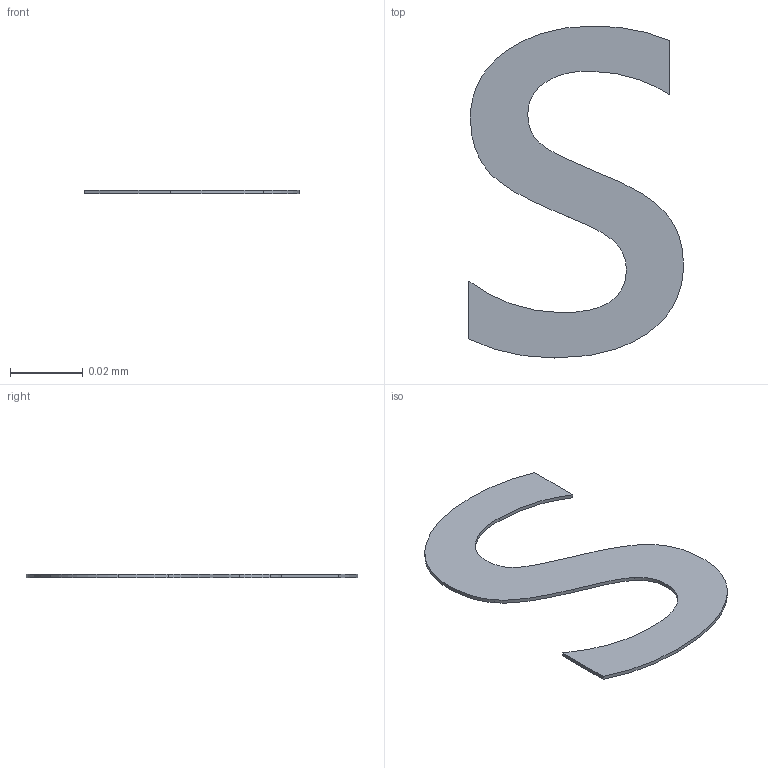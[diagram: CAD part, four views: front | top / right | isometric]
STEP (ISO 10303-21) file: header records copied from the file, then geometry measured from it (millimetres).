
FILE_DESCRIPTION(/* description */ ('STEP AP242 Edition 2','CAx-IF Rec.Pracs.---Representation and Presentation of Product Manufacturing Information (PMI)---4.0---2014-10-13','CAx-IF Rec.Pracs.---3D Tessellated Geometry---0.4---2014-09-14','2;1','CAx-IF Rec.Pracs.---User Defined Attributes---1.5---2016-08-15'),/* implementation_level */ '2;1');
FILE_NAME(/* name */ 'Assembly 1 - SW-SMD_L3.9-W3.0-P4.45~SW-SMD_L3.9-W2.9-H2.0-LS4.8~nxQB_1 (15)',/* time_stamp */ '2026-04-02T09:55:26Z',/* author */ (''),/* organization */ (''),/* preprocessor_version */ 'ST-DEVELOPER v20',/* originating_system */ 'ONSHAPE BY PTC INC, 1.212',/* authorisation */ ' ');
FILE_SCHEMA (('AP242_MANAGED_MODEL_BASED_3D_ENGINEERING_MIM_LF { 1 0 10303 442 3 1 4 }'));
Length unit declared in the file: metre
Products named in the file (1): SW-SMD_L3.9-W3.0-P4.45~SW-SMD_L3.9-W2.9-H2.0-LS4.8~nxQB_1
Bounding box: 0.06 x 0.09 x 0 mm (x, y, z)
Volume: 0 mm3; surface area: 0 mm2
Topology: 1 solids, 1 shells, 23 faces, 63 edges, 42 vertices
Faces by surface type: bspline 19, plane 4
Entity records: 1015 total; most frequent: CARTESIAN_POINT 376, ORIENTED_EDGE 126, EDGE_CURVE 63, VERTEX_POINT 42, B_SPLINE_CURVE_WITH_KNOTS 38, DIRECTION 35, LINE 25, VECTOR 25
